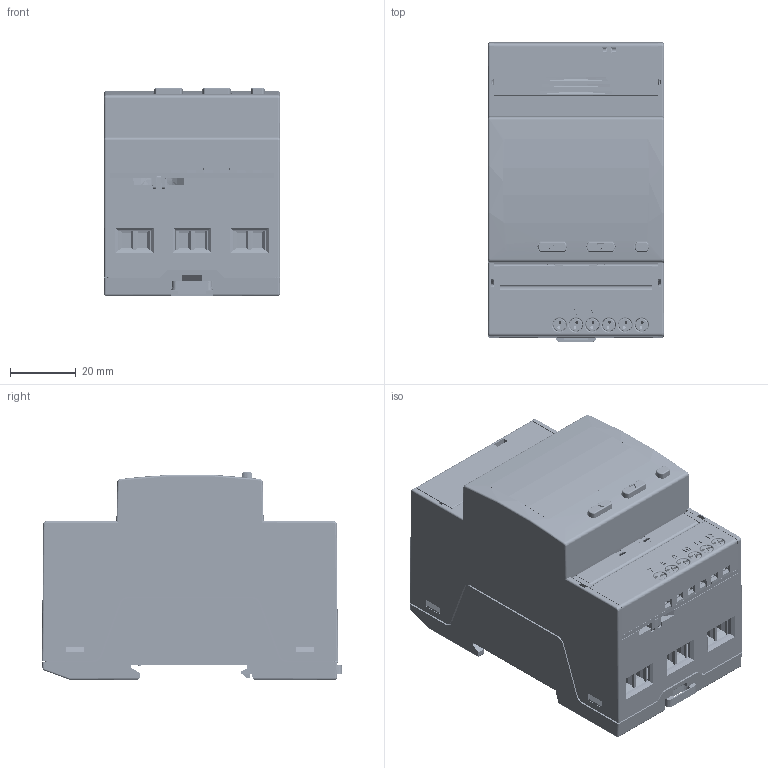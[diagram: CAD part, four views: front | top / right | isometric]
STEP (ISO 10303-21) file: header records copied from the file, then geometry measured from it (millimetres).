
FILE_DESCRIPTION(/* description */ (''),/* implementation_level */ '2;1');
FILE_NAME(/* name */ 'Z:\Meccanica\EM3000\EM530 _Shrinkwrap_21.04.2021.stp',/* time_stamp */ '2021-04-21T09:18:19+02:00',/* author */ ('dfregona'),/* organization */ (''),/* preprocessor_version */ 'ST-DEVELOPER v18.1',/* originating_system */ 'Autodesk Inventor 2021',/* authorisation */ '');
FILE_SCHEMA (('AUTOMOTIVE_DESIGN { 1 0 10303 214 3 1 1 }'));
Products named in the file (1): EM3000AV5 - 12.07.2019_Shrinkwrap_1
Bounding box: 53.4 x 91.31 x 63.06 mm (x, y, z)
Volume: 71506 mm3; surface area: 95142.2 mm2
Topology: 10 solids, 403 shells, 9334 faces, 26179 edges, 17424 vertices
Faces by surface type: plane 5927, cylinder 1913, bspline 952, sphere 283, cone 173, torus 86
Full cylindrical faces by diameter (mm): 0.3 x3, 1.3 x2, 1.5 x15, 1.9 x30, 2 x2, 2.121 x12, 2.2 x1, 2.4 x18, 3.82 x13, 3.85 x6, 3.95 x13, 4.05 x26, 4.1 x1, 4.3 x4
Entity records: 334879 total; most frequent: CARTESIAN_POINT 88216, ORIENTED_EDGE 50902, DIRECTION 45547, EDGE_CURVE 26179, LINE 18457, VECTOR 18457, VERTEX_POINT 17424, AXIS2_PLACEMENT_3D 13545
